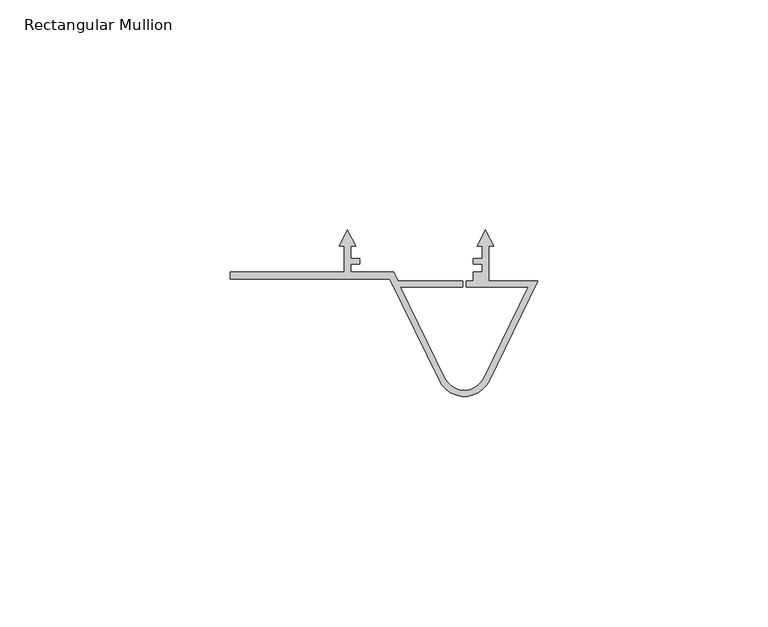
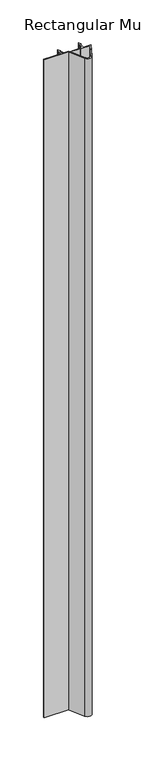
"""IFC4 building model written with IfcOpenShell, lengths in millimetres: member geometry, Rectangular Mullion : Renson_Linarte_LA-CO-01."""

from ifc_helpers import new_model, si_unit, point, frame, frame_2d, origin, place, context, project, spatial, polyline, circle_curve, trimmed, segment, composite_curve, outline, extrude, source, transform, mapped, element, save


def rectangular_mullion_3bb5119e(model_context):
    return source(origin(), model_context, "Body", "SweptSolid", [
        extrude(outline(composite_curve([segment(polyline([(-41.4001673, -25.0), (-39.5844306, -28.5635874), (-40.7001684, -28.465973), (-40.7001684, -31.2), (-38.7079043, -31.2), (-38.7079043, -32.4), (-40.700168, -32.4), (-40.700168, -34.2), (-31.2920456, -34.2), (-30.3239483, -36.0999998), (-16.3741469, -36.0999998), (-16.3741469, -37.3999998), (-29.9021735, -37.3999998), (-20.2156362, -57.2603444)]), True, "CONTINUOUS"), segment(trimmed(circle_curve(frame_2d((-15.9913042, -55.2)), 4.7), [point((-20.2156362, -57.2603444))], [point((-11.7669722, -57.2603444))], True, "CARTESIAN"), True, "CONTINUOUS"), segment(polyline([(-11.7669722, -57.2603444), (-2.0804349, -37.3999998), (-15.6084615, -37.3999998), (-15.6084615, -36.0999998), (-14.0924315, -36.0999998), (-14.0924315, -34.1999999), (-12.1001674, -34.1999999), (-12.1001674, -32.3999999), (-14.0924315, -32.3999999), (-14.0924315, -31.1999999), (-12.1001674, -31.1999999), (-12.1001674, -28.4659732), (-13.2159038, -28.5635874), (-11.4001673, -25.0), (-9.5844307, -28.5635874), (-10.7001672, -28.4659732), (-10.7001672, -36.0999998), (0.0, -36.0999998), (-10.5985399, -57.8302269)]), True, "CONTINUOUS"), segment(trimmed(circle_curve(frame_2d((-15.9913042, -55.2)), 6.0), [point((-10.5985399, -57.8302269))], [point((-21.3840685, -57.8302268))], False, "CARTESIAN"), True, "CONTINUOUS"), segment(polyline([(-21.3840685, -57.8302268), (-32.1777013, -35.6999997), (-66.9001673, -35.6999997), (-66.9001673, -34.2), (-42.1001682, -34.2), (-42.1001682, -28.4659733), (-43.2159039, -28.5635875), (-41.4001673, -25.0)]), True, "CONTINUOUS")], self_intersect=False)), frame((0.0, 0.0, -1000.0), z_axis=(0.0, 0.0, 1.0), x_axis=(1.0, 0.0, 0.0)), (0.0, 0.0, 1.0), 1000.0),
    ])


if __name__ == "__main__":
    model = new_model("IFC4")
    model_context = context("Model", 3, world=origin())
    ifc_project = project(units=[si_unit("LENGTHUNIT", "METRE", prefix="MILLI")], contexts=[model_context])
    site = spatial("IfcSite", under=ifc_project)
    building = spatial("IfcBuilding", under=site)
    placement = place(None, origin())
    rectangular_mullion_shape = rectangular_mullion_3bb5119e(model_context)
    element("IfcMember", 1, ObjectType="Rectangular Mullion : Renson_Linarte_LA-CO-01", at=placement, inside=building, context=model_context, shape_type="MappedRepresentation", body=[
        mapped(rectangular_mullion_shape, transform((0.0, 0.0, 0.0), x_axis=(1.0, 0.0, 0.0), y_axis=(0.0, 1.0, 0.0), z_axis=(0.0, 0.0, 1.0))),
    ])
    save(model, "model.ifc")
